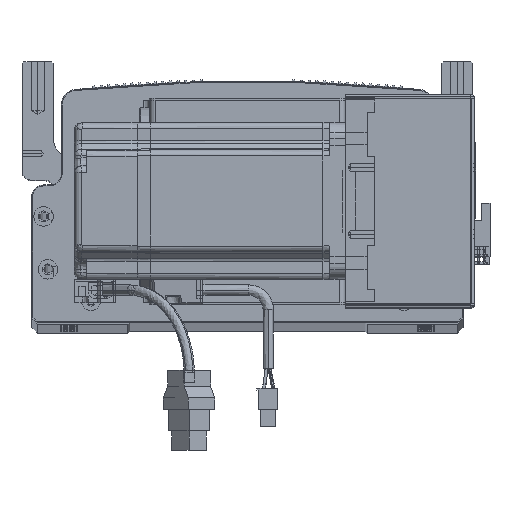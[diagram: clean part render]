
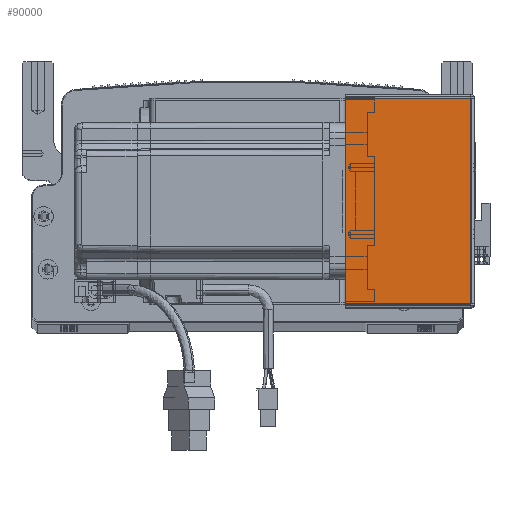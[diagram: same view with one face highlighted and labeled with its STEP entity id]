
A CAD part, top view. The second image highlights one B-rep face of the part: STEP entity #90000.
In plain terms, the highlighted planar face has unit normal (0, 0, 1) as drawn and (0, 0, -1) by its records, which use the part's own axes.
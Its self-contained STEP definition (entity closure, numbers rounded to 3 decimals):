
#4678 = CARTESIAN_POINT ( 'NONE',  ( 0.737, 0., -205.5 ) ) ;
#5321 = VERTEX_POINT ( 'NONE', #83926 ) ;
#9422 = ORIENTED_EDGE ( 'NONE', *, *, #42065, .F. ) ;
#10756 = ORIENTED_EDGE ( 'NONE', *, *, #26842, .F. ) ;
#14430 = CARTESIAN_POINT ( 'NONE',  ( 0.737, 105.293, -205.5 ) ) ;
#16915 = DIRECTION ( 'NONE',  ( 0., 0., 1. ) ) ;
#18245 = AXIS2_PLACEMENT_3D ( 'NONE', #38374, #16915, #76091 ) ;
#19389 = DIRECTION ( 'NONE',  ( 1., 0., 0. ) ) ;
#23119 = DIRECTION ( 'NONE',  ( 1., 0., 0. ) ) ;
#26842 = EDGE_CURVE ( 'NONE', #5321, #60950, #72452, .T. ) ;
#28918 = CARTESIAN_POINT ( 'NONE',  ( 64.5, 0., -205.5 ) ) ;
#30621 = CARTESIAN_POINT ( 'NONE',  ( 0., 105.293, -205.5 ) ) ;
#31241 = PLANE ( 'NONE',  #18245 ) ;
#31503 = ORIENTED_EDGE ( 'NONE', *, *, #50421, .T. ) ;
#32279 = EDGE_LOOP ( 'NONE', ( #9422, #57268, #31503, #10756 ) ) ;
#33290 = VERTEX_POINT ( 'NONE', #83417 ) ;
#33792 = DIRECTION ( 'NONE',  ( 0., -1., 0. ) ) ;
#38374 = CARTESIAN_POINT ( 'NONE',  ( 0., 0., -205.5 ) ) ;
#41513 = CARTESIAN_POINT ( 'NONE',  ( 0., 0.707, -205.5 ) ) ;
#42065 = EDGE_CURVE ( 'NONE', #66703, #5321, #83475, .T. ) ;
#50094 = CARTESIAN_POINT ( 'NONE',  ( 64.5, 0.707, -205.5 ) ) ;
#50421 = EDGE_CURVE ( 'NONE', #33290, #60950, #60455, .T. ) ;
#51311 = FACE_OUTER_BOUND ( 'NONE', #32279, .T. ) ;
#56722 = LINE ( 'NONE', #30621, #89225 ) ;
#57268 = ORIENTED_EDGE ( 'NONE', *, *, #79498, .T. ) ;
#60455 = LINE ( 'NONE', #28918, #69788 ) ;
#60950 = VERTEX_POINT ( 'NONE', #50094 ) ;
#63274 = DIRECTION ( 'NONE',  ( 0., -1., 0. ) ) ;
#66703 = VERTEX_POINT ( 'NONE', #14430 ) ;
#68642 = VECTOR ( 'NONE', #19389, 1000. ) ;
#69788 = VECTOR ( 'NONE', #33792, 1000. ) ;
#72452 = LINE ( 'NONE', #41513, #68642 ) ;
#76091 = DIRECTION ( 'NONE',  ( 1., 0., 0. ) ) ;
#79498 = EDGE_CURVE ( 'NONE', #66703, #33290, #56722, .T. ) ;
#81158 = VECTOR ( 'NONE', #63274, 1000. ) ;
#83417 = CARTESIAN_POINT ( 'NONE',  ( 64.5, 105.293, -205.5 ) ) ;
#83475 = LINE ( 'NONE', #4678, #81158 ) ;
#83926 = CARTESIAN_POINT ( 'NONE',  ( 0.737, 0.707, -205.5 ) ) ;
#89225 = VECTOR ( 'NONE', #23119, 1000. ) ;
#90000 = ADVANCED_FACE ( 'NONE', ( #51311 ), #31241, .F. ) ;
